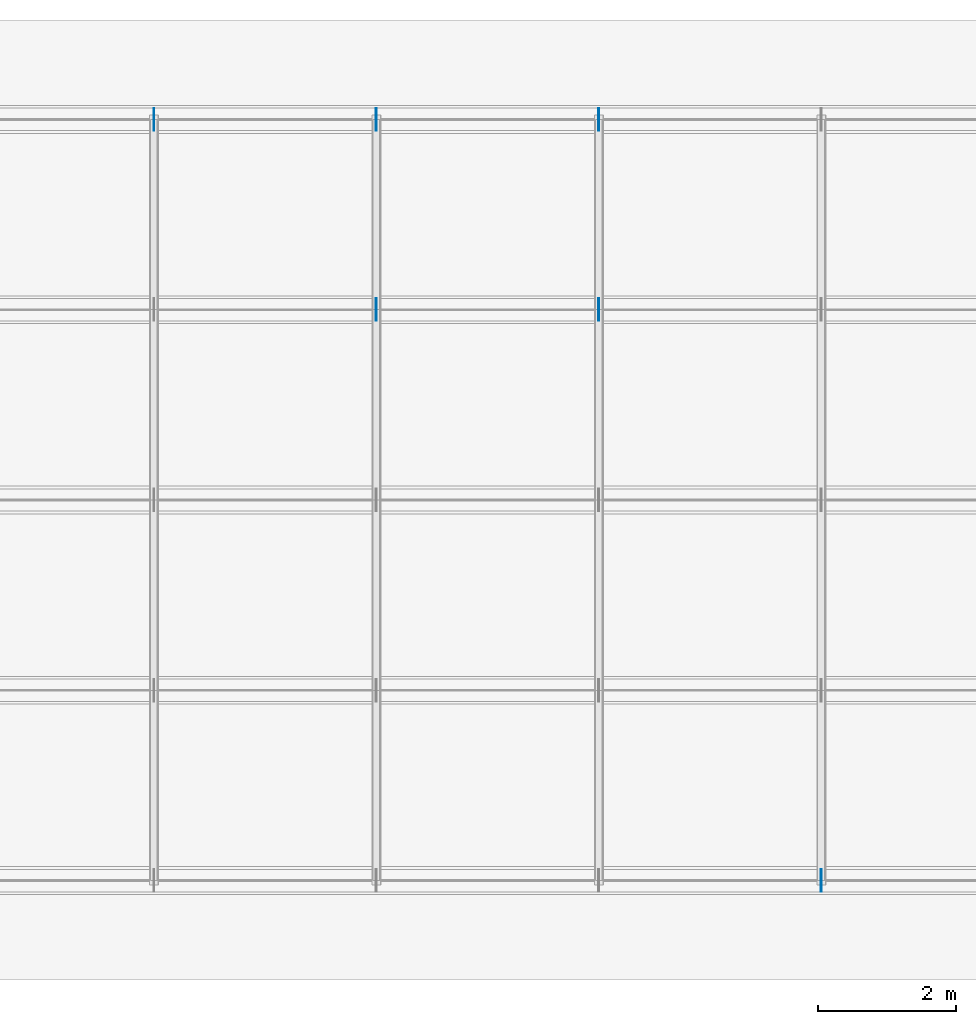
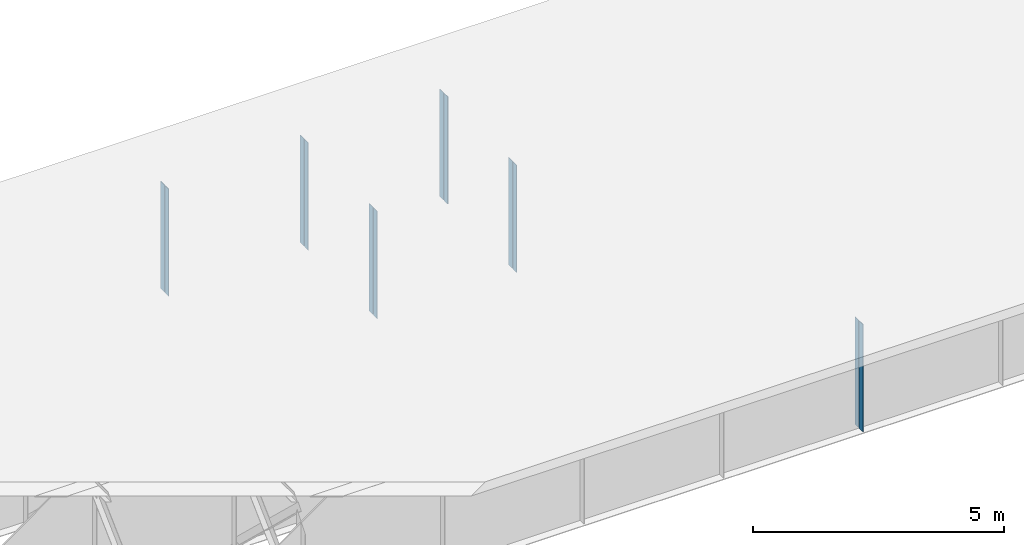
# One storey, part 18 of 20: 12 plates.
"""IFC4 building model written with IfcOpenShell, lengths in metres."""

from ifc_helpers import new_model, si_unit, frame, origin, origin_with_axes, origin_2d_with_axis, place, context, subcontext, project, spatial, rectangle, extrude, element, save


model = new_model("IFC4")

# Units and contexts
model_context = context("Model", 3, precision=1e-05, world=origin())
body_context = subcontext(model_context, "Body", "Model", "MODEL_VIEW")
ifc_project = project(units=[si_unit("LENGTHUNIT", "METRE"), si_unit("AREAUNIT", "SQUARE_METRE"), si_unit("VOLUMEUNIT", "CUBIC_METRE"), si_unit("PLANEANGLEUNIT", "RADIAN")], contexts=[model_context])

# Site, building, storey
site_placement = place(None, origin_with_axes())
site = spatial("IfcSite", under=ifc_project, at=site_placement, Name="Default Site")
building_placement = place(site_placement, origin_with_axes())
building = spatial("IfcBuilding", under=site, at=building_placement, Name="Bridge Structure")
storey_placement = place(building_placement, origin_with_axes())
storey = spatial("IfcBuildingStorey", under=building, at=storey_placement, Name="Superstructure")

# Plates
for number, where, z_axis, x_axis, name in (
    (1, (32.14, -5.41425, -1.307), (0.0, 0.0, 1.0), (1.0, 0.0, 0.0), "Intermediate Stiffener 1"),
    (2, (32.14, -5.58575, -1.307), (0.0, 0.0, 1.0), (1.0, 0.0, 0.0), "Intermediate Stiffener 1"),
    (3, (25.712, 2.83575, -1.307), (0.0, 0.0, 1.0), (1.0, 0.0, 0.0), "Intermediate Stiffener 4"),
    (4, (25.712, 2.66425, -1.307), (0.0, 0.0, 1.0), (1.0, 0.0, 0.0), "Intermediate Stiffener 4"),
    (5, (28.926000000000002, 2.83575, -1.307), (0.0, 0.0, 1.0), (1.0, 0.0, 0.0), "Intermediate Stiffener 4"),
    (6, (28.926000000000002, 2.66425, -1.307), (0.0, 0.0, 1.0), (1.0, 0.0, 0.0), "Intermediate Stiffener 4"),
    (7, (22.498, 5.58575, -1.307), (0.0, 0.0, 1.0), (1.0, 0.0, 0.0), "Intermediate Stiffener 5"),
    (8, (22.498, 5.41425, -1.307), (0.0, 0.0, 1.0), (1.0, 0.0, 0.0), "Intermediate Stiffener 5"),
    (9, (25.712, 5.58575, -1.307), (0.0, 0.0, 1.0), (1.0, 0.0, 0.0), "Intermediate Stiffener 5"),
    (10, (25.712, 5.41425, -1.307), (0.0, 0.0, 1.0), (1.0, 0.0, 0.0), "Intermediate Stiffener 5"),
    (11, (28.926000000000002, 5.58575, -1.307), (0.0, 0.0, 1.0), (1.0, 0.0, 0.0), "Intermediate Stiffener 5"),
    (12, (28.926000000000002, 5.41425, -1.307), (0.0, 0.0, 1.0), (1.0, 0.0, 0.0), "Intermediate Stiffener 5"),
):
    element("IfcPlate", number, at=place(storey_placement, frame(where, z_axis=z_axis, x_axis=x_axis)), inside=storey, Name=name, context=body_context, shape_type="SweptSolid", body=[
        extrude(rectangle(XDim=0.012, YDim=0.1535, at=origin_2d_with_axis()), origin_with_axes(), (0.0, 0.0, 1.0), 2.614),
    ])

save(model, "model.ifc")
